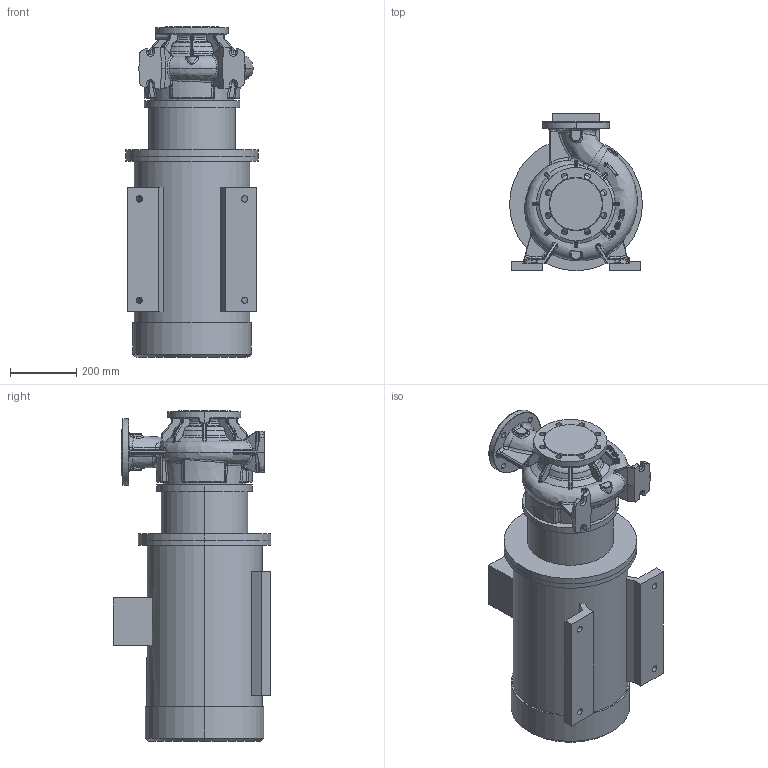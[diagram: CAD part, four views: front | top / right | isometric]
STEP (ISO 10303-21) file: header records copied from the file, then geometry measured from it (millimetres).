
FILE_DESCRIPTION (( 'STEP AP214' ), '1' );
FILE_NAME ('KRM 100-80-200-2-30.STEP', '2026-04-22T12:30:58', ( '' ), ( '' ), 'SwSTEP 2.0', 'SolidWorks 2016', '' );
FILE_SCHEMA (( 'AUTOMOTIVE_DESIGN' ));
Length unit declared in the file: millimetre
Products named in the file (1): KRM 100-80-200-2-30
Bounding box: 400 x 475 x 995.8 mm (x, y, z)
Volume: 88205742.5 mm3; surface area: 2345816.5 mm2
Topology: 14 solids, 14 shells, 1379 faces, 3303 edges, 1969 vertices
Faces by surface type: bspline 620, cylinder 308, plane 223, torus 119, cone 81, sphere 28
Entity records: 107041 total; most frequent: CARTESIAN_POINT 64429, ORIENTED_EDGE 6586, DIRECTION 4522, EDGE_CURVE 3293, VERTEX_POINT 1969, AXIS2_PLACEMENT_3D 1879, EDGE_LOOP 1452, UNCERTAINTY_MEASURE_WITH_UNIT 1395
